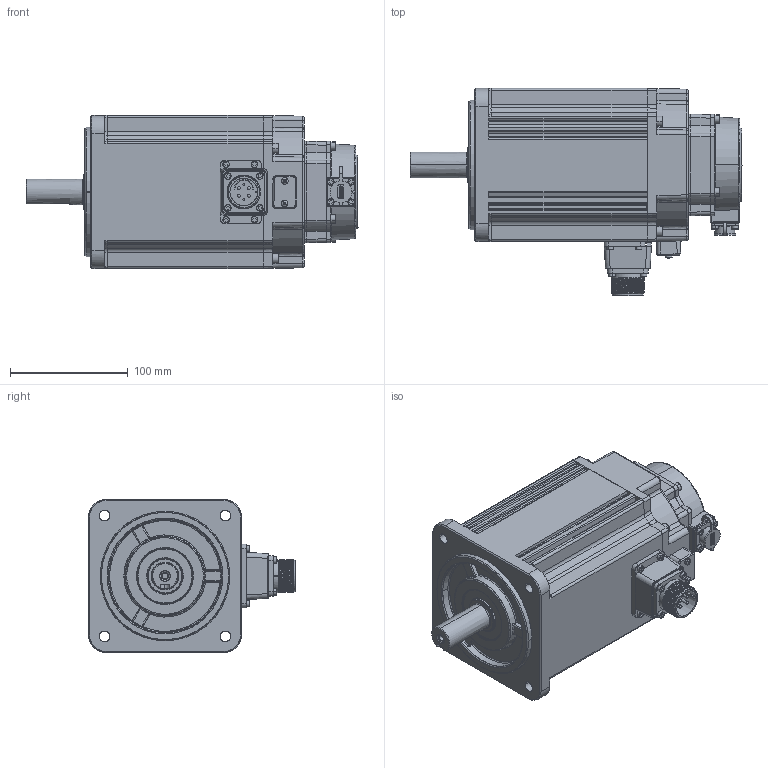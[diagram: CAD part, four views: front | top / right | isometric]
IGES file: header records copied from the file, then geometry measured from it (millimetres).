
Start section: SolidWorks IGES file using analytic representation for surfaces
Global section: file name: D:\xi\MS6G-130 油封\MS6G-130CS(M)(TL)15E2-42P3（14615）\MS6G-130CS(M)(TL)15B2-42P3（14615）\MS6G-130TL15EZ2-42P3.IGS; native system: SolidWorks 2022; preprocessor: SolidWorks 2022; author: xishengxian; date: 231010.132347; units: millimetre
Bounding box: 282 x 175.9 x 130 mm (x, y, z)
Surface area: 179233.5 mm2 (no closed solid volume)
Topology: 0 solids, 0 shells, 991 faces, 12338 edges, 12316 vertices
Faces by surface type: bspline 617, revolution 374
